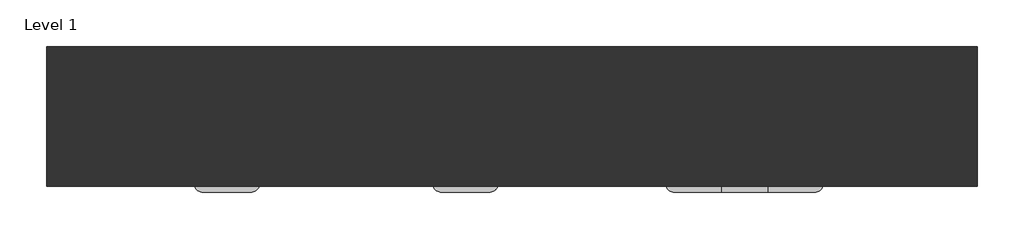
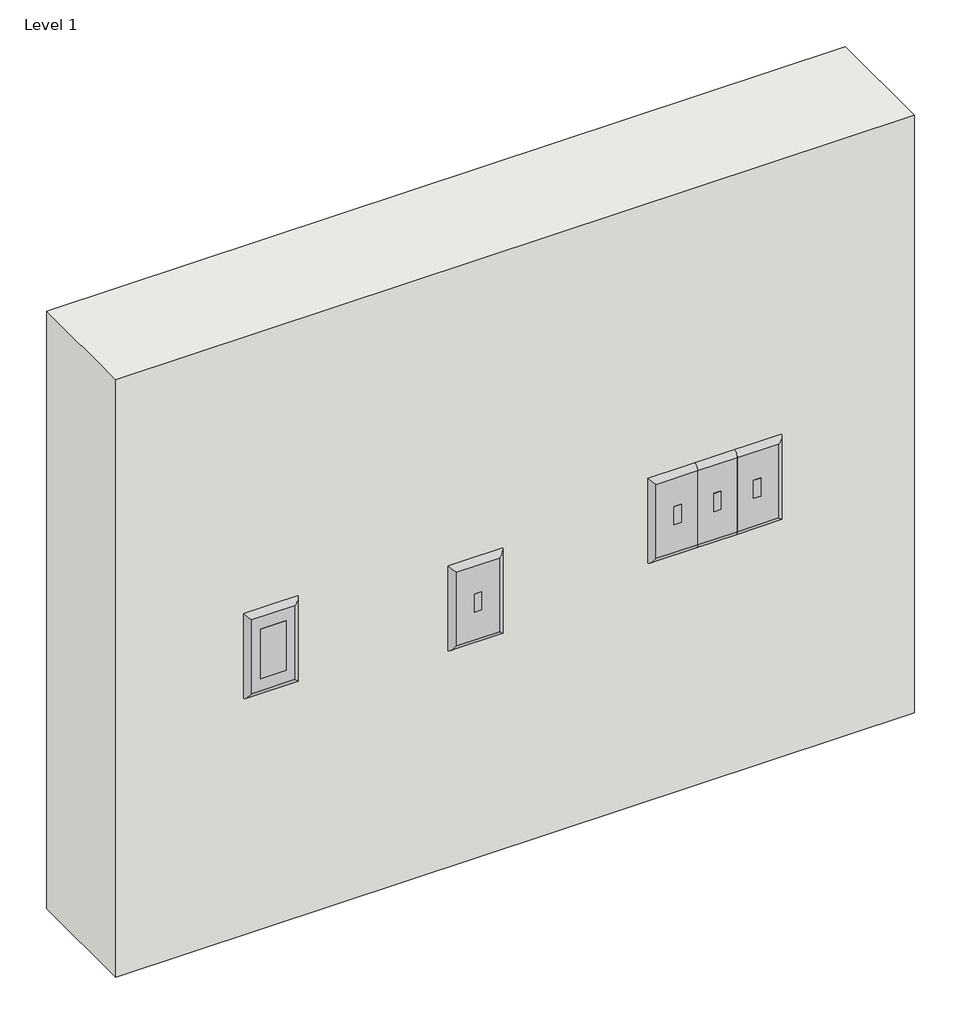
# One storey: 5 proxies, 1 wall.
"""IFC4 building model written with IfcOpenShell, lengths in millimetres."""

from ifc_helpers import new_model, si_unit, frame, origin, place, context, project, spatial, polyline, outline, extrude, transform, mapped, element, save
from components import brown_01702a38, brown_4d2072a2, light_almond_af45ca08, light_almond_a7d462e7, light_almond_fe51396b

model = new_model("IFC4")

# Units and contexts
model_context = context("Model", 3, world=origin())
ifc_project = project(units=[si_unit("LENGTHUNIT", "METRE", prefix="MILLI")], contexts=[model_context])

# Site, building, storey
site = spatial("IfcSite", under=ifc_project)
building = spatial("IfcBuilding", under=site)
storey = spatial("IfcBuildingStorey", under=building, Name="Level 1", Elevation=0.0)

# Proxies
placement = place(None, origin())
brown_shape = brown_01702a38(model_context)
element("IfcBuildingElementProxy", 1, Name="Switch-Wall-Pass_And_Seymour-Decorator : Brown", ObjectType="Switch-Wall-Pass_And_Seymour-Decorator : Brown", at=placement, inside=storey, context=model_context, shape_type="MappedRepresentation", body=[
    mapped(brown_shape, transform((2563.4473575, 1963.1766815, 918.4233998), x_axis=(1.0, 0.0, 0.0), y_axis=(0.0, 0.0, 1.0), z_axis=(0.0, -1.0, 0.0))),
])
brown_2_shape = brown_4d2072a2(model_context)
element("IfcBuildingElementProxy", 2, Name="Switch-Wall-Pass_And_Seymour-Toggle : Brown", ObjectType="Switch-Wall-Pass_And_Seymour-Toggle : Brown", at=placement, inside=storey, context=model_context, shape_type="MappedRepresentation", body=[
    mapped(brown_2_shape, transform((2823.7973575, 1963.1766815, 891.4424633), x_axis=(1.0, 0.0, 0.0), y_axis=(0.0, 0.0, 1.0), z_axis=(0.0, -1.0, 0.0))),
])
light_almond_shape = light_almond_af45ca08(model_context)
element("IfcBuildingElementProxy", 3, Name="Switch-Wall-Pass_And_Seymour-Toggle : Light Almond", ObjectType="Switch-Wall-Pass_And_Seymour-Toggle : Light Almond", at=placement, inside=storey, context=model_context, shape_type="MappedRepresentation", body=[
    mapped(light_almond_shape, transform((3128.3179575, 1963.1766815, 920.2020054), x_axis=(1.0, 0.0, 0.0), y_axis=(0.0, 0.0, 1.0), z_axis=(0.0, -1.0, 0.0))),
])
light_almond_2_shape = light_almond_a7d462e7(model_context)
element("IfcBuildingElementProxy", 4, Name="Switch-Wall-Pass_And_Seymour-Toggle : Light Almond", ObjectType="Switch-Wall-Pass_And_Seymour-Toggle : Light Almond", at=placement, inside=storey, context=model_context, shape_type="MappedRepresentation", body=[
    mapped(light_almond_2_shape, transform((3077.7973575, 1963.1766815, 920.2020054), x_axis=(1.0, 0.0, 0.0), y_axis=(0.0, 0.0, 1.0), z_axis=(0.0, -1.0, 0.0))),
])
light_almond_3_shape = light_almond_fe51396b(model_context)
element("IfcBuildingElementProxy", 5, Name="Switch-Wall-Pass_And_Seymour-Toggle : Light Almond", ObjectType="Switch-Wall-Pass_And_Seymour-Toggle : Light Almond", at=placement, inside=storey, context=model_context, shape_type="MappedRepresentation", body=[
    mapped(light_almond_3_shape, transform((3178.8385575, 1963.1766815, 920.2020054), x_axis=(1.0, 0.0, 0.0), y_axis=(0.0, 0.0, 1.0), z_axis=(0.0, -1.0, 0.0))),
])

# Wall
element("IfcWall", 6, ObjectType="Exterior - 6\" Generic", at=placement, inside=storey, context=model_context, shape_type="SweptSolid", body=[
    extrude(outline(polyline([(3382.5973575, 1963.1766815), (2366.5973575, 1963.1766815), (2366.5973575, 2115.5766815), (3382.5973575, 2115.5766815), (3382.5973575, 1963.1766815)])), frame((0.0, 0.0, 542.8901471), z_axis=(0.0, 0.0, 1.0), x_axis=(1.0, 0.0, 0.0)), (0.0, 0.0, 1.0), 803.3098529),
])

save(model, "model.ifc")
